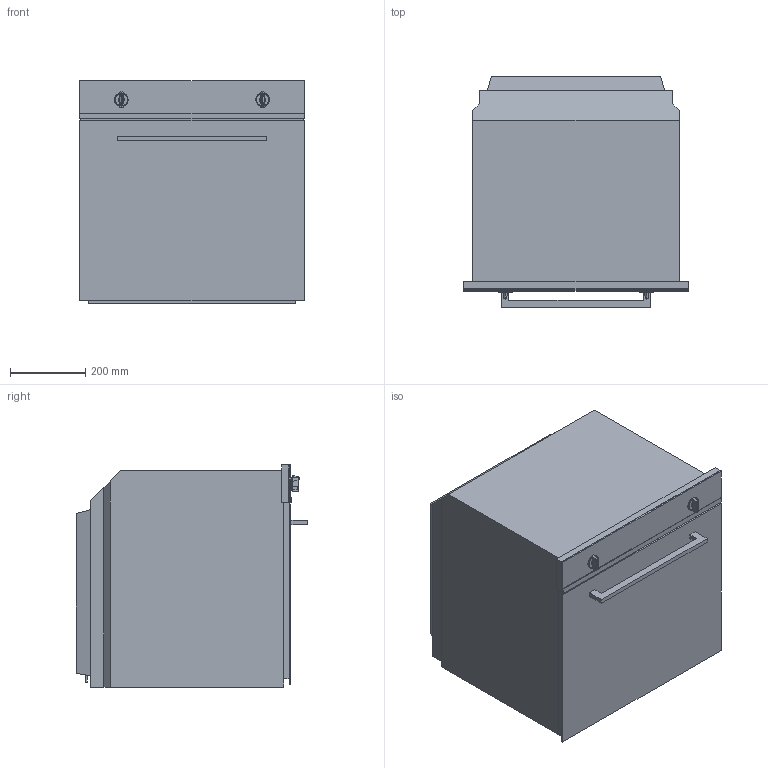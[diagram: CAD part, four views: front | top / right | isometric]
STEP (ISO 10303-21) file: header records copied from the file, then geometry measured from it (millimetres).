
FILE_DESCRIPTION(/* description */ ('Unknown'),/* implementation_level */ '2;1');
FILE_NAME(/* name */ 'SFP6401TB',/* time_stamp */ '2025-10-20T17:46:12+02:00',/* author */ ('Unknown'),/* organization */ ('Unknown'),/* preprocessor_version */ 'ST-DEVELOPER v16.7',/* originating_system */ 'DEX',/* authorisation */ $);
FILE_SCHEMA (('AUTOMOTIVE_DESIGN {1 0 10303 214 3 1 1}'));
Length unit declared in the file: millimetre
Products named in the file (1): SFP6401TB
Bounding box: 597 x 616.45 x 591.84 mm (x, y, z)
Volume: 174118080.8 mm3; surface area: 2095710.3 mm2
Topology: 2 solids, 2 shells, 128 faces, 339 edges, 223 vertices
Faces by surface type: plane 87, bspline 34, cylinder 7
Full cylindrical faces by diameter (mm): 5 x1, 32 x2
Entity records: 5434 total; most frequent: CARTESIAN_POINT 1730, ORIENTED_EDGE 668, DIRECTION 439, EDGE_CURVE 334, VERTEX_POINT 221, LINE 193, VECTOR 193, EDGE_LOOP 141
